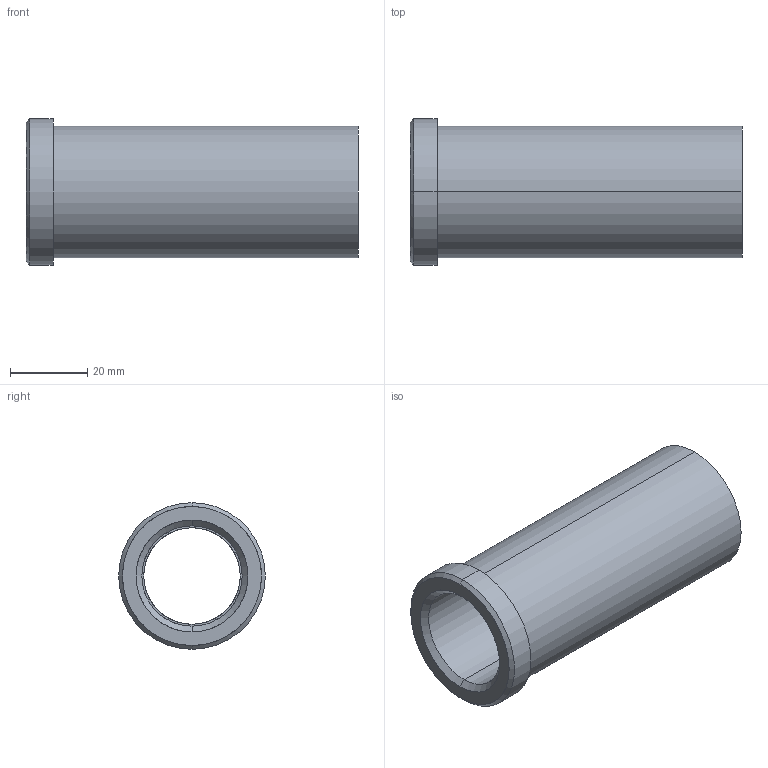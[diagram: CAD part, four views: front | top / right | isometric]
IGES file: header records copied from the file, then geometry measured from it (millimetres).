
Start section: START RECORD GO HERE.
Global section: file name: 353-25X86.igs; native system: DASSAULT SYSTEMES CATIA V5 R20 - www.3ds.com; preprocessor: CATIA Version 5 Release 20 ; author: Utente; organization: NB04-ASUS; date: 20210512.204221; units: millimetre
Bounding box: 86 x 38 x 38 mm (x, y, z)
Surface area: 17222.3 mm2 (no closed solid volume)
Topology: 0 solids, 0 shells, 18 faces, 116 edges, 116 vertices
Faces by surface type: revolution 14, plane 4
